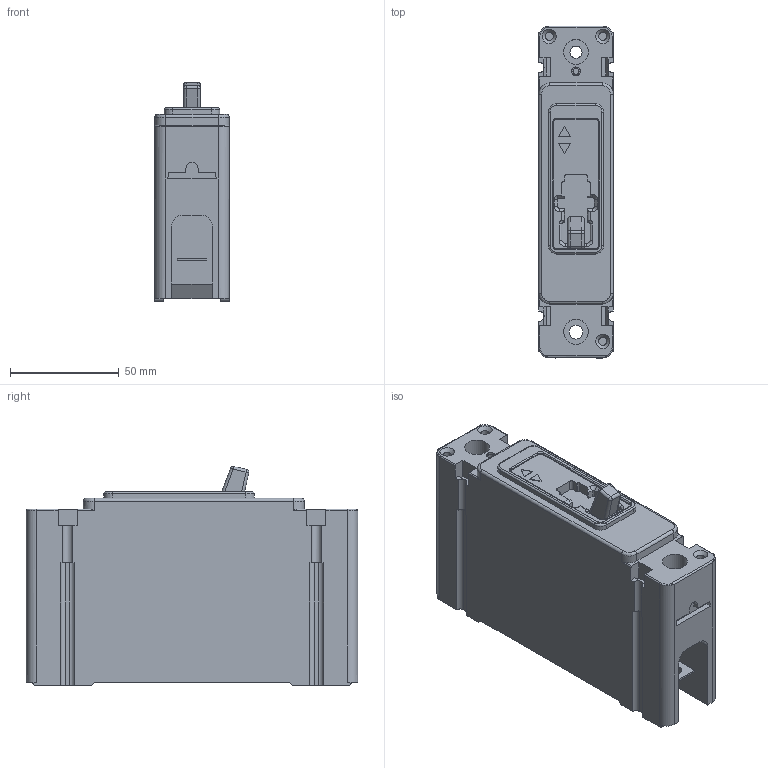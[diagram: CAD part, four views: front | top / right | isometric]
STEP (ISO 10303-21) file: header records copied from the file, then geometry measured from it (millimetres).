
FILE_DESCRIPTION((''),'2;1');
FILE_NAME('C:\Users\E0021267\Desktop\CAD Model Project\ECO-074990 - FD FIXES - In Process\FD1_.stp','2014-12-09T17:07:18',('E0021267'),(''),'Autodesk Inventor 2013','Autodesk Inventor 2013','');
FILE_SCHEMA(('AUTOMOTIVE_DESIGN { 1 2 10303 214 0 1 1 1 }'));
Length unit declared in the file: inch
Products named in the file (1): FD1_
Bounding box: 34.14 x 152.4 x 100.62 mm (x, y, z)
Volume: 378674.7 mm3; surface area: 52782.1 mm2
Topology: 1 solids, 1 shells, 423 faces, 1112 edges, 708 vertices
Faces by surface type: plane 264, cylinder 120, torus 16, bspline 10, cone 9, sphere 4
Full cylindrical faces by diameter (mm): 2.794 x1, 3.708 x5, 3.962 x1, 5.563 x1, 6.35 x3, 11.43 x2
Entity records: 13279 total; most frequent: CARTESIAN_POINT 2739, DIRECTION 2176, ORIENTED_EDGE 2174, EDGE_CURVE 1087, VECTOR 784, LINE 784, VERTEX_POINT 707, AXIS2_PLACEMENT_3D 696
